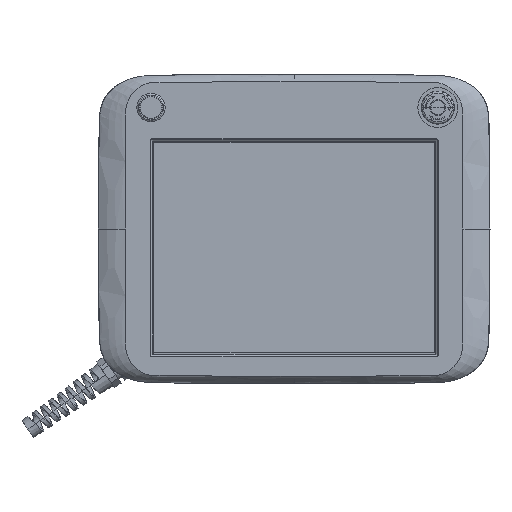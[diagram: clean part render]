
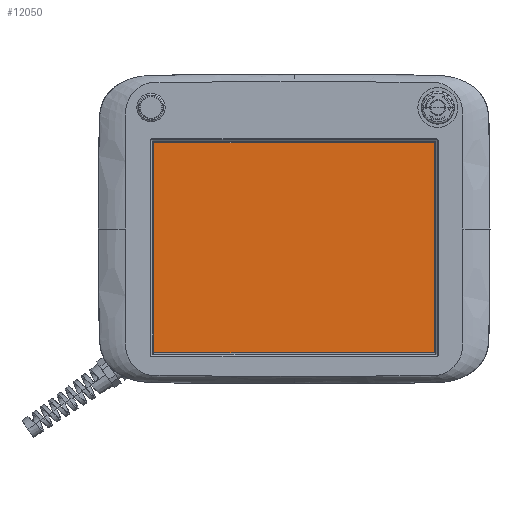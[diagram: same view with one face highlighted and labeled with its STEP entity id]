
A CAD part, front view. The second image highlights one B-rep face of the part: STEP entity #12050.
In plain terms, the highlighted planar face has unit normal (0, -1, 0) as drawn and (0, 1, 0) by its records, which use the part's own axes.
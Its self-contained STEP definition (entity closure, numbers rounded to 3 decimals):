
#12050=ADVANCED_FACE('',(#18595),#16158,.T.);
#16158=PLANE('',#87398);
#18595=FACE_OUTER_BOUND('',#23077,.T.);
#23077=EDGE_LOOP('',(#36254,#36255,#36256,#36257));
#36254=ORIENTED_EDGE('',*,*,#65576,.F.);
#36255=ORIENTED_EDGE('',*,*,#65574,.F.);
#36256=ORIENTED_EDGE('',*,*,#65572,.F.);
#36257=ORIENTED_EDGE('',*,*,#65570,.F.);
#56383=VERTEX_POINT('',#151539);
#56384=VERTEX_POINT('',#151541);
#56385=VERTEX_POINT('',#151545);
#56386=VERTEX_POINT('',#151549);
#65570=EDGE_CURVE('',#56383,#56384,#76553,.T.);
#65572=EDGE_CURVE('',#56384,#56385,#76555,.T.);
#65574=EDGE_CURVE('',#56385,#56386,#76557,.T.);
#65576=EDGE_CURVE('',#56386,#56383,#76559,.T.);
#76553=LINE('',#151540,#82101);
#76555=LINE('',#151544,#82103);
#76557=LINE('',#151548,#82105);
#76559=LINE('',#151552,#82107);
#82101=VECTOR('',#99208,1.);
#82103=VECTOR('',#99212,1.);
#82105=VECTOR('',#99216,1.);
#82107=VECTOR('',#99220,1.);
#87398=AXIS2_PLACEMENT_3D('',#151554,#99223,#99224);
#99208=DIRECTION('',(1.,0.,0.));
#99212=DIRECTION('',(0.,0.,1.));
#99216=DIRECTION('',(-1.,0.,0.));
#99220=DIRECTION('',(0.,0.,-1.));
#99223=DIRECTION('',(0.,1.,0.));
#99224=DIRECTION('',(-1.,0.,0.));
#151539=CARTESIAN_POINT('',(-123.,-0.1,-92.15));
#151540=CARTESIAN_POINT('',(-123.,-0.1,-92.15));
#151541=CARTESIAN_POINT('',(123.,-0.1,-92.15));
#151544=CARTESIAN_POINT('',(123.,-0.1,-92.15));
#151545=CARTESIAN_POINT('',(123.,-0.1,92.15));
#151548=CARTESIAN_POINT('',(123.,-0.1,92.15));
#151549=CARTESIAN_POINT('',(-123.,-0.1,92.15));
#151552=CARTESIAN_POINT('',(-123.,-0.1,92.15));
#151554=CARTESIAN_POINT('',(0.,-0.1,0.));
